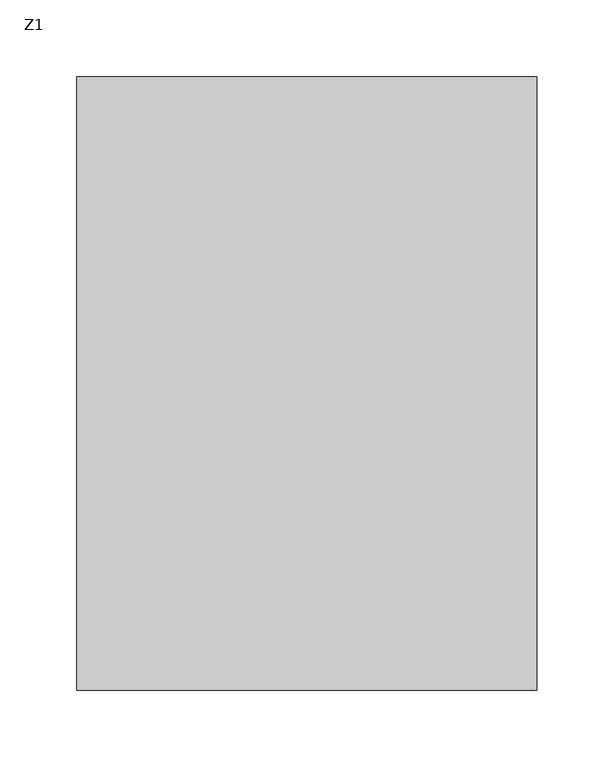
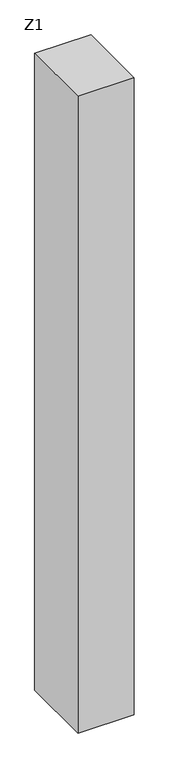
"""IFC4 building model written with IfcOpenShell, lengths in millimetres: column geometry, 混凝土 - 矩形 - 柱 : Z1."""

from ifc_helpers import new_model, si_unit, frame, origin, place, context, project, spatial, polyline, outline, extrude, source, transform, mapped, element, save


def z1_fb18289b(model_context):
    return source(origin(), model_context, "Body", "SweptSolid", [
        extrude(outline(polyline([(150.0, 200.0), (150.0, -200.0), (-150.0, -200.0), (-150.0, 200.0), (150.0, 200.0)])), frame((0.0, 0.0, -600.0), z_axis=(0.0, 0.0, 1.0), x_axis=(1.0, 0.0, 0.0)), (0.0, 0.0, 1.0), 3600.0),
    ])


if __name__ == "__main__":
    model = new_model("IFC4")
    model_context = context("Model", 3, world=origin())
    ifc_project = project(units=[si_unit("LENGTHUNIT", "METRE", prefix="MILLI")], contexts=[model_context])
    site = spatial("IfcSite", under=ifc_project)
    building = spatial("IfcBuilding", under=site)
    placement = place(None, origin())
    z1_shape = z1_fb18289b(model_context)
    element("IfcColumn", 1, ObjectType="混凝土 - 矩形 - 柱 : Z1", at=placement, inside=building, context=model_context, shape_type="MappedRepresentation", body=[
        mapped(z1_shape, transform((0.0, 0.0, 0.0), x_axis=(1.0, 0.0, 0.0), y_axis=(0.0, 1.0, 0.0), z_axis=(0.0, 0.0, 1.0))),
    ])
    save(model, "model.ifc")
